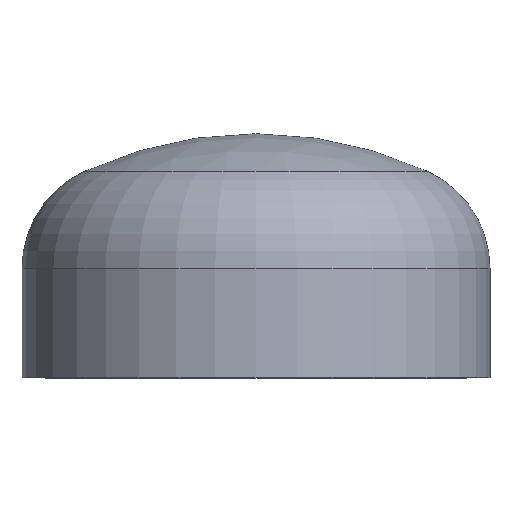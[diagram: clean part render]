
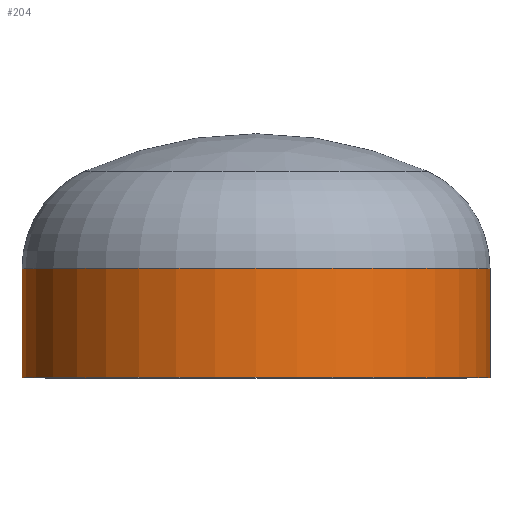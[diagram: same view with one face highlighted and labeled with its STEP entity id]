
A CAD part, top view. The second image highlights one B-rep face of the part: STEP entity #204.
In plain terms, the highlighted cylindrical face has radius 300 mm (diameter 600 mm), a partial arc.
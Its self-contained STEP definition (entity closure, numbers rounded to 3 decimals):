
#21 = EDGE_LOOP ( 'NONE', ( #112, #96, #145, #55 ) ) ;
#26 = AXIS2_PLACEMENT_3D ( 'NONE', #245, #269, #285 ) ;
#55 = ORIENTED_EDGE ( 'NONE', *, *, #394, .F. ) ;
#82 = VERTEX_POINT ( 'NONE', #240 ) ;
#84 = AXIS2_PLACEMENT_3D ( 'NONE', #342, #341, #339 ) ;
#91 = EDGE_CURVE ( 'NONE', #97, #134, #235, .T. ) ;
#93 = EDGE_CURVE ( 'NONE', #165, #97, #151, .T. ) ;
#96 = ORIENTED_EDGE ( 'NONE', *, *, #91, .T. ) ;
#97 = VERTEX_POINT ( 'NONE', #242 ) ;
#112 = ORIENTED_EDGE ( 'NONE', *, *, #93, .T. ) ;
#134 = VERTEX_POINT ( 'NONE', #363 ) ;
#145 = ORIENTED_EDGE ( 'NONE', *, *, #369, .F. ) ;
#151 = CIRCLE ( 'NONE', #84, 300. ) ;
#165 = VERTEX_POINT ( 'NONE', #267 ) ;
#184 = DIRECTION ( 'NONE',  ( 1., 0., 0. ) ) ;
#204 = ADVANCED_FACE ( 'NONE', ( #391 ), #262, .T. ) ;
#208 = CARTESIAN_POINT ( 'NONE',  ( 0., 0., 0. ) ) ;
#231 = VECTOR ( 'NONE', #297, 1000. ) ;
#235 = LINE ( 'NONE', #270, #294 ) ;
#237 = DIRECTION ( 'NONE',  ( 0., -1., 0. ) ) ;
#240 = CARTESIAN_POINT ( 'NONE',  ( 300., 0., 0. ) ) ;
#242 = CARTESIAN_POINT ( 'NONE',  ( -300., 140., 0. ) ) ;
#244 = AXIS2_PLACEMENT_3D ( 'NONE', #208, #321, #184 ) ;
#245 = CARTESIAN_POINT ( 'NONE',  ( 0., 0., 0. ) ) ;
#262 = CYLINDRICAL_SURFACE ( 'NONE', #26, 300. ) ;
#267 = CARTESIAN_POINT ( 'NONE',  ( 300., 140., 0. ) ) ;
#269 = DIRECTION ( 'NONE',  ( 0., -1., 0. ) ) ;
#270 = CARTESIAN_POINT ( 'NONE',  ( -300., 0., 0. ) ) ;
#285 = DIRECTION ( 'NONE',  ( 1., 0., 0. ) ) ;
#294 = VECTOR ( 'NONE', #237, 1000. ) ;
#297 = DIRECTION ( 'NONE',  ( 0., -1., 0. ) ) ;
#299 = CARTESIAN_POINT ( 'NONE',  ( 300., 0., 0. ) ) ;
#321 = DIRECTION ( 'NONE',  ( 0., -1., 0. ) ) ;
#339 = DIRECTION ( 'NONE',  ( 1., 0., 0. ) ) ;
#341 = DIRECTION ( 'NONE',  ( 0., -1., 0. ) ) ;
#342 = CARTESIAN_POINT ( 'NONE',  ( 0., 140., 0. ) ) ;
#361 = LINE ( 'NONE', #299, #231 ) ;
#363 = CARTESIAN_POINT ( 'NONE',  ( -300., 0., 0. ) ) ;
#368 = CIRCLE ( 'NONE', #244, 300. ) ;
#369 = EDGE_CURVE ( 'NONE', #82, #134, #368, .T. ) ;
#391 = FACE_OUTER_BOUND ( 'NONE', #21, .T. ) ;
#394 = EDGE_CURVE ( 'NONE', #165, #82, #361, .T. ) ;
